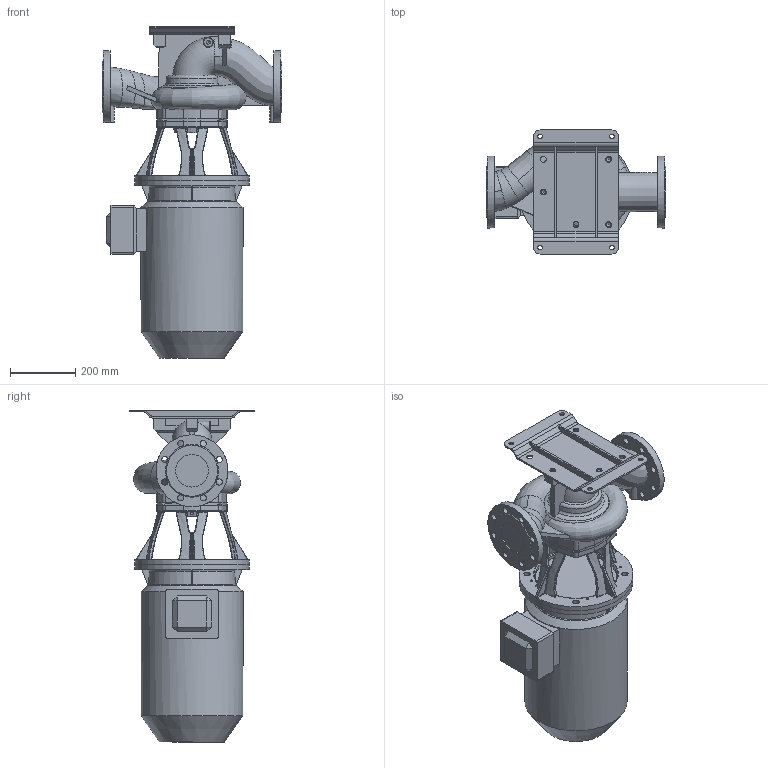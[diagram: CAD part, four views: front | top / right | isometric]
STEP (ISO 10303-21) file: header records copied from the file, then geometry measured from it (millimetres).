
FILE_DESCRIPTION (( 'STEP AP203' ), '1' );
FILE_NAME ('KI100-180_2_18,5kW_1.STEP', '2026-07-22T05:11:04', ( '' ), ( '' ), 'SwSTEP 2.0', 'SolidWorks 2023', '' );
FILE_SCHEMA (( 'CONFIG_CONTROL_DESIGN' ));
Length unit declared in the file: millimetre
Products named in the file (11): 230180; 220508; 230179; 220511; KI100-180_2_18,5kW_1; 230494; 220427; 230181; 230490; 440186_solid; 220426
Assembly tree (11 placements, depth 3):
  KI100-180_2_18,5kW_1
    220511
      220508
    230494
      230490
    220427
      220426
    230181
      230179
      230180  x2
    440186_solid
Bounding box: 550 x 380.18 x 1016.45 mm (x, y, z)
Volume: 58864949.3 mm3; surface area: 2047568.6 mm2
Topology: 7 solids, 7 shells, 1035 faces, 2674 edges, 1621 vertices
Faces by surface type: bspline 313, plane 287, cylinder 259, torus 84, cone 70, sphere 22
Full cylindrical faces by diameter (mm): 5 x4, 6 x3, 6.8 x4, 7 x4, 10.2 x4, 11.8 x4, 14 x7, 14.5 x4, 18 x5, 19 x24, 100 x2, 150 x1, 189 x1, 194 x1, 220 x2, 250 x1, 313 x1, 350 x2
Entity records: 79679 total; most frequent: CARTESIAN_POINT 56622, ORIENTED_EDGE 4950, DIRECTION 3989, EDGE_CURVE 2475, AXIS2_PLACEMENT_3D 1639, VERTEX_POINT 1550, EDGE_LOOP 1219, FACE_OUTER_BOUND 1102
